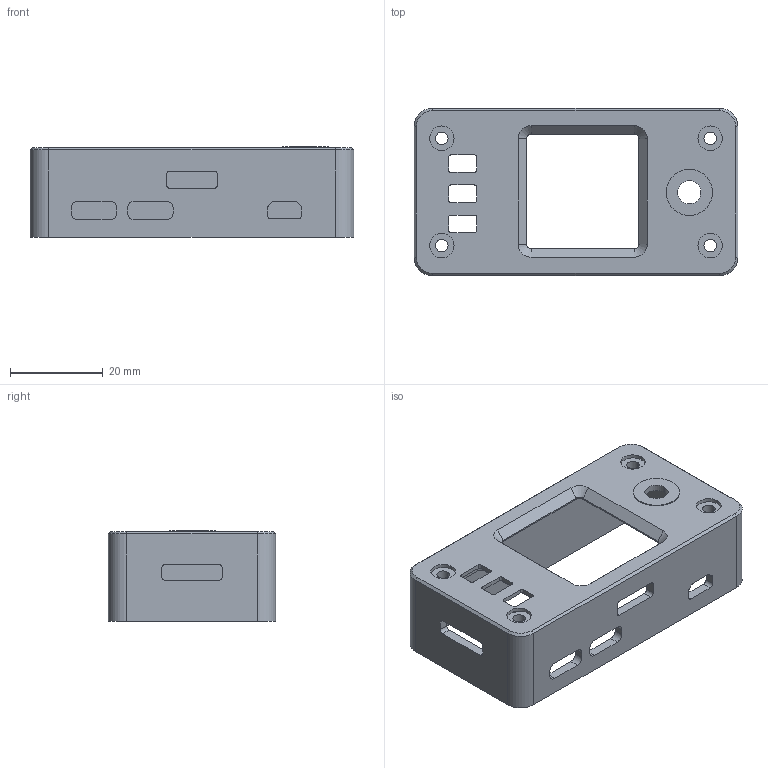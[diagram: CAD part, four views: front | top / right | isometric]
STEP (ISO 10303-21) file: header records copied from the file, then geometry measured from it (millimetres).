
FILE_DESCRIPTION (( 'STEP AP214' ), '1' );
FILE_NAME ('Case print V3.STEP', '2026-02-17T22:16:28', ( 'Sergey' ), ( '' ), 'SwSTEP 2.0', 'SolidWorks 2015', '' );
FILE_SCHEMA (( 'AUTOMOTIVE_DESIGN' ));
Length unit declared in the file: millimetre
Products named in the file (1): Case print V3
Bounding box: 70 x 36.2 x 19.6 mm (x, y, z)
Volume: 10425.8 mm3; surface area: 11217.1 mm2
Topology: 1 solids, 1 shells, 182 faces, 497 edges, 326 vertices
Faces by surface type: cylinder 93, plane 81, cone 8
Entity records: 5905 total; most frequent: DIRECTION 1065, CARTESIAN_POINT 1006, ORIENTED_EDGE 994, EDGE_CURVE 497, AXIS2_PLACEMENT_3D 385, VERTEX_POINT 326, LINE 295, VECTOR 295
